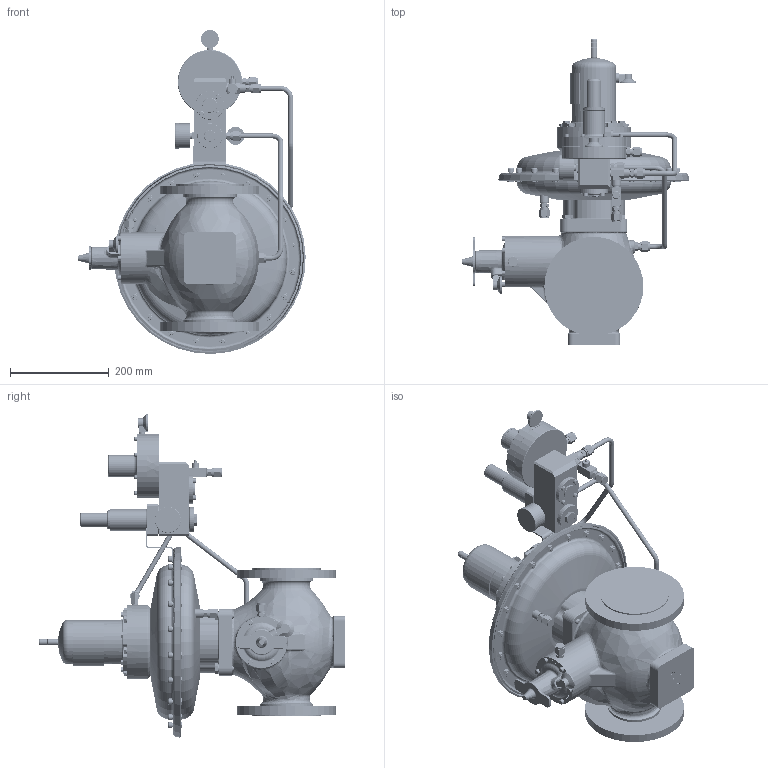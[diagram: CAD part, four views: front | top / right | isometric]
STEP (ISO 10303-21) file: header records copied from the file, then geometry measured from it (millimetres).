
FILE_DESCRIPTION((''),'2;1');
FILE_NAME('222001_BRISE_PLUS_3_A_SW0001','2018-10-03T',('jjunior'),(''),'PRO/ENGINEER BY PARAMETRIC TECHNOLOGY CORPORATION, 2010160','PRO/ENGINEER BY PARAMETRIC TECHNOLOGY CORPORATION, 2010160','');
FILE_SCHEMA(('CONFIG_CONTROL_DESIGN'));
Products named in the file (1): 222001_BRISE_PLUS_3_A_SW0001
Bounding box: 459.27 x 618.4 x 654.47 mm (x, y, z)
Volume: 7598329.9 mm3; surface area: 1669732.7 mm2
Topology: 2 solids, 4 shells, 4848 faces, 11549 edges, 7101 vertices
Faces by surface type: plane 2068, cylinder 1085, cone 941, torus 448, bspline 279, sphere 22, extrusion 5
Entity records: 177842 total; most frequent: CARTESIAN_POINT 68007, ORIENTED_EDGE 22982, DIRECTION 22524, EDGE_CURVE 11491, AXIS2_PLACEMENT_3D 8548, VERTEX_POINT 7089, VECTOR 5428, LINE 5423
